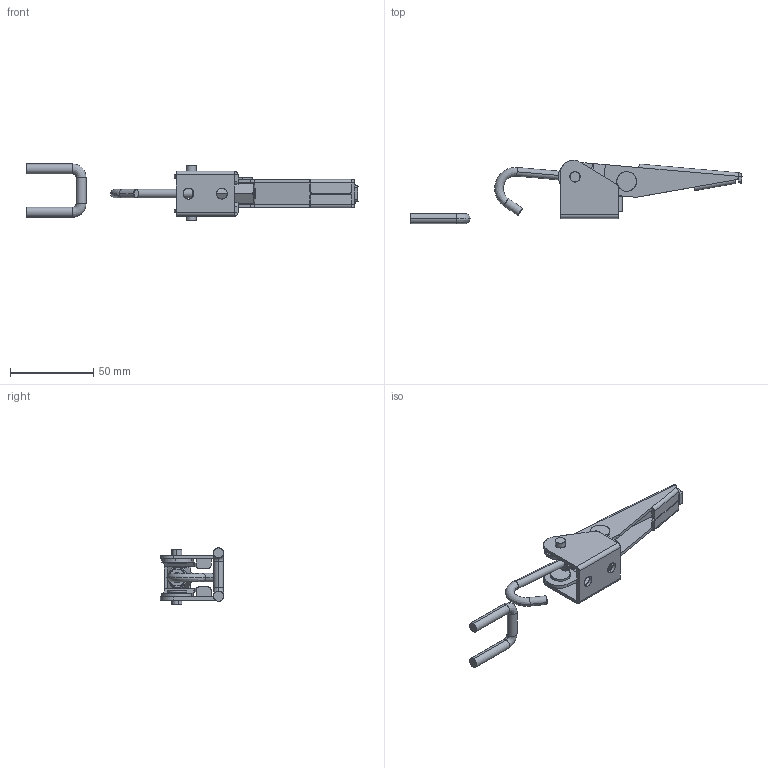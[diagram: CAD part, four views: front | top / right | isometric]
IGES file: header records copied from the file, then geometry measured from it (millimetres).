
Start section: SolidWorks IGES file using analytic representation for surfaces
Global section: file name: \\BARTOP_SV6\share\SOLIDWORKS\工具事業部\坂入用\受け渡し\作業中\2015.06.30\ISK-FA1100\ISK-FA1100.IGS; native system: SolidWorks 2015; preprocessor: SolidWorks 2015; author: SOLID02; date: 150630.155830; units: millimetre
Bounding box: 199.17 x 37.89 x 33.7 mm (x, y, z)
Surface area: 22496.3 mm2 (no closed solid volume)
Topology: 0 solids, 0 shells, 273 faces, 3341 edges, 3341 vertices
Faces by surface type: bspline 143, revolution 130
